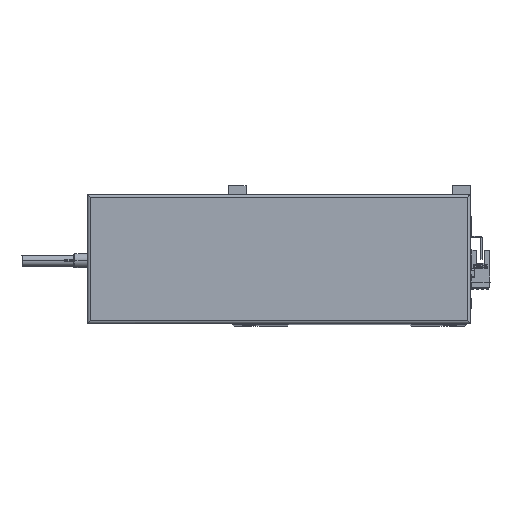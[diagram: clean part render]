
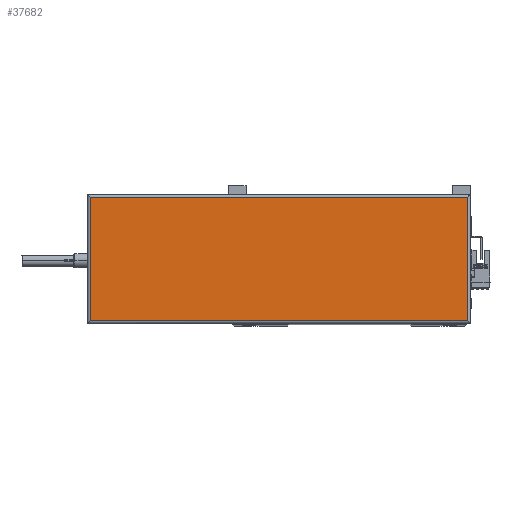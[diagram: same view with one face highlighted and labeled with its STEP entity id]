
A CAD part, top view. The second image highlights one B-rep face of the part: STEP entity #37682.
In plain terms, the highlighted planar face has unit normal (0, 0, 1).
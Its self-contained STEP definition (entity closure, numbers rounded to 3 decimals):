
#1214 = VERTEX_POINT ( 'NONE', #24632 ) ;
#2457 = DIRECTION ( 'NONE',  ( 0., 1., 0. ) ) ;
#3961 = DIRECTION ( 'NONE',  ( -1., 0., 0. ) ) ;
#4110 = FACE_OUTER_BOUND ( 'NONE', #16411, .T. ) ;
#5536 = CARTESIAN_POINT ( 'NONE',  ( 2., 0., 44.8 ) ) ;
#5876 = CARTESIAN_POINT ( 'NONE',  ( 265., 90., 44.8 ) ) ;
#7737 = PLANE ( 'NONE',  #23644 ) ;
#9671 = VECTOR ( 'NONE', #3961, 1000. ) ;
#10463 = ORIENTED_EDGE ( 'NONE', *, *, #28616, .T. ) ;
#10904 = VECTOR ( 'NONE', #17386, 1000. ) ;
#12033 = EDGE_CURVE ( 'NONE', #1214, #28454, #47295, .T. ) ;
#15262 = ORIENTED_EDGE ( 'NONE', *, *, #12033, .T. ) ;
#15358 = VECTOR ( 'NONE', #28010, 1000. ) ;
#16411 = EDGE_LOOP ( 'NONE', ( #15262, #32677, #10463, #42550 ) ) ;
#17386 = DIRECTION ( 'NONE',  ( 0., -1., 0. ) ) ;
#20468 = CARTESIAN_POINT ( 'NONE',  ( 267., 2., 44.8 ) ) ;
#22947 = CARTESIAN_POINT ( 'NONE',  ( 2., 88., 44.8 ) ) ;
#23086 = DIRECTION ( 'NONE',  ( 1., 0., 0. ) ) ;
#23644 = AXIS2_PLACEMENT_3D ( 'NONE', #34461, #45980, #23086 ) ;
#24632 = CARTESIAN_POINT ( 'NONE',  ( 265., 2., 44.8 ) ) ;
#28010 = DIRECTION ( 'NONE',  ( 1., 0., 0. ) ) ;
#28174 = VECTOR ( 'NONE', #2457, 1000. ) ;
#28454 = VERTEX_POINT ( 'NONE', #31792 ) ;
#28616 = EDGE_CURVE ( 'NONE', #34196, #30387, #39573, .T. ) ;
#28962 = EDGE_CURVE ( 'NONE', #28454, #34196, #46153, .T. ) ;
#30387 = VERTEX_POINT ( 'NONE', #30589 ) ;
#30589 = CARTESIAN_POINT ( 'NONE',  ( 2., 2., 44.8 ) ) ;
#31792 = CARTESIAN_POINT ( 'NONE',  ( 265., 88., 44.8 ) ) ;
#32677 = ORIENTED_EDGE ( 'NONE', *, *, #28962, .T. ) ;
#34196 = VERTEX_POINT ( 'NONE', #22947 ) ;
#34461 = CARTESIAN_POINT ( 'NONE',  ( 133.5, 45., 44.8 ) ) ;
#37682 = ADVANCED_FACE ( 'NONE', ( #4110 ), #7737, .T. ) ;
#37741 = CARTESIAN_POINT ( 'NONE',  ( 0., 88., 44.8 ) ) ;
#39573 = LINE ( 'NONE', #5536, #10904 ) ;
#42550 = ORIENTED_EDGE ( 'NONE', *, *, #48368, .T. ) ;
#42867 = LINE ( 'NONE', #20468, #15358 ) ;
#45980 = DIRECTION ( 'NONE',  ( 0., 0., 1. ) ) ;
#46153 = LINE ( 'NONE', #37741, #9671 ) ;
#47295 = LINE ( 'NONE', #5876, #28174 ) ;
#48368 = EDGE_CURVE ( 'NONE', #30387, #1214, #42867, .T. ) ;
